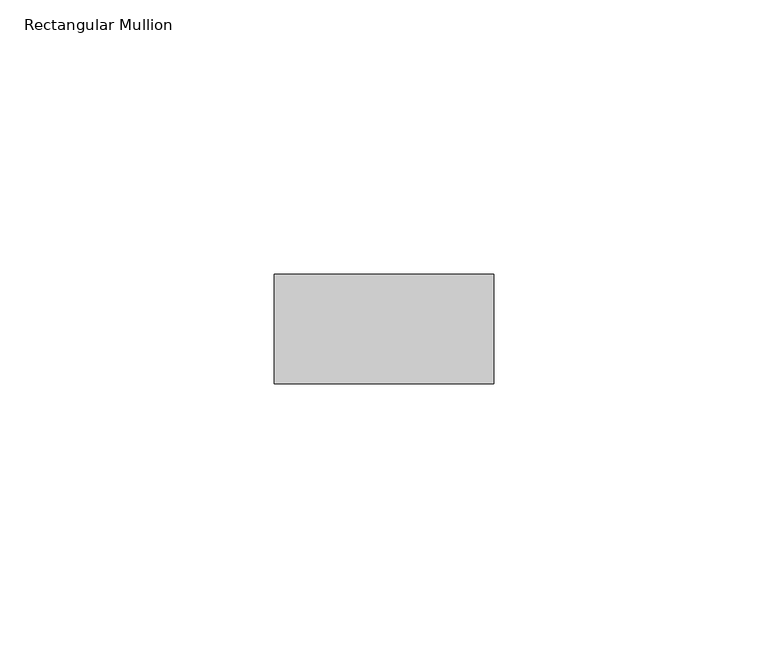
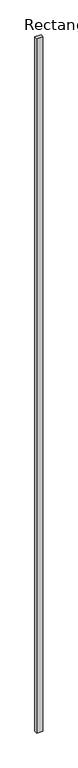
"""IFC4 building model written with IfcOpenShell, lengths in millimetres: member geometry, Rectangular Mullion : RIPA 4x2 cm."""

from ifc_helpers import new_model, si_unit, frame, origin, place, context, project, spatial, polyline, outline, extrude, source, transform, mapped, element, save


def rectangular_mullion_bd6efb2f(model_context):
    return source(origin(), model_context, "Body", "SweptSolid", [
        extrude(outline(polyline([(20.0, 0.0), (20.0, -20.0), (-20.0, -20.0), (-20.0, 0.0), (20.0, 0.0)])), frame((0.0, 0.0, -4784.0081143), z_axis=(0.0, 0.0, 1.0), x_axis=(1.0, 0.0, 0.0)), (0.0, 0.0, 1.0), 4784.0081143),
    ])


if __name__ == "__main__":
    model = new_model("IFC4")
    model_context = context("Model", 3, world=origin())
    ifc_project = project(units=[si_unit("LENGTHUNIT", "METRE", prefix="MILLI")], contexts=[model_context])
    site = spatial("IfcSite", under=ifc_project)
    building = spatial("IfcBuilding", under=site)
    placement = place(None, origin())
    rectangular_mullion_shape = rectangular_mullion_bd6efb2f(model_context)
    element("IfcMember", 1, ObjectType="Rectangular Mullion : RIPA 4x2 cm", at=placement, inside=building, context=model_context, shape_type="MappedRepresentation", body=[
        mapped(rectangular_mullion_shape, transform((0.0, 0.0, 0.0), x_axis=(1.0, 0.0, 0.0), y_axis=(0.0, 1.0, 0.0), z_axis=(0.0, 0.0, 1.0))),
    ])
    save(model, "model.ifc")
